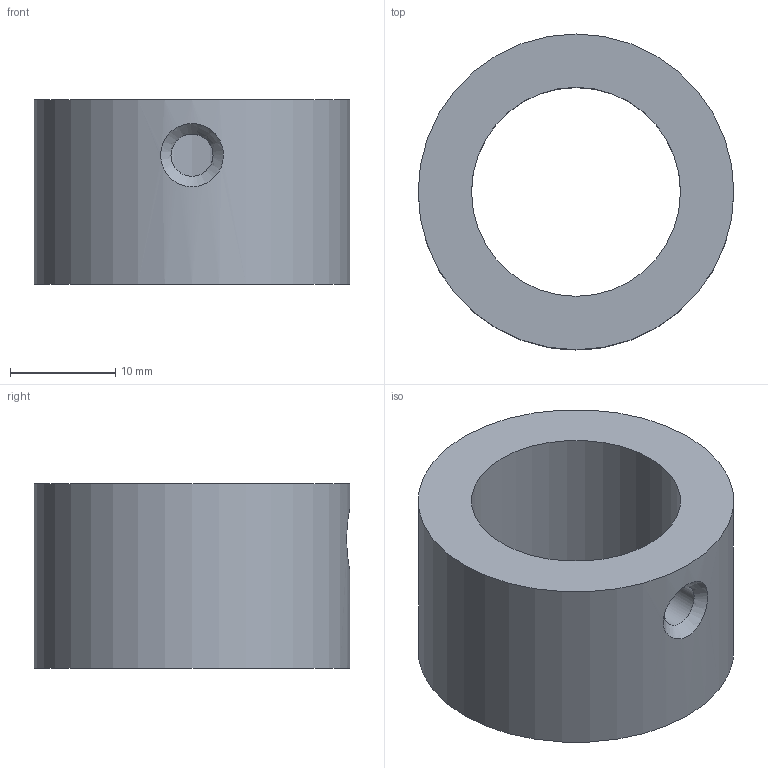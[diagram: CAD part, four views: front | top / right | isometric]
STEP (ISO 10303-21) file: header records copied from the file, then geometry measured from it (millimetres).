
FILE_DESCRIPTION(/* description */ (''),/* implementation_level */ '2;1');
FILE_NAME(/* name */ 'C:/Users/ramar/Desktop/asofij/Bearing Sleeve v3.step',/* time_stamp */ '2021-02-07T11:44:12-06:00',/* author */ (''),/* organization */ (''),/* preprocessor_version */ 'ST-DEVELOPER v18.1',/* originating_system */ 'Autodesk Translation Framework v9.7.1.1290',/* authorisation */ '');
FILE_SCHEMA (('AUTOMOTIVE_DESIGN { 1 0 10303 214 3 1 1 }'));
Length unit declared in the file: millimetre
Products named in the file (1): Bearing Sleeve
Bounding box: 30 x 30 x 17.5 mm (x, y, z)
Volume: 6883.1 mm3; surface area: 3567.4 mm2
Topology: 1 solids, 1 shells, 6 faces, 13 edges, 9 vertices
Faces by surface type: cylinder 3, plane 2, bspline 1
Full cylindrical faces by diameter (mm): 4 x1, 19.85 x1, 30 x1
Entity records: 363 total; most frequent: CARTESIAN_POINT 195, ORIENTED_EDGE 26, DIRECTION 24, EDGE_CURVE 13, EDGE_LOOP 10, AXIS2_PLACEMENT_3D 10, VERTEX_POINT 9, FACE_OUTER_BOUND 6
